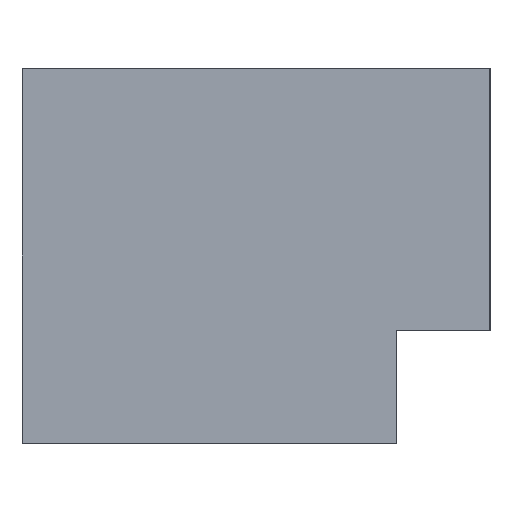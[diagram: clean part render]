
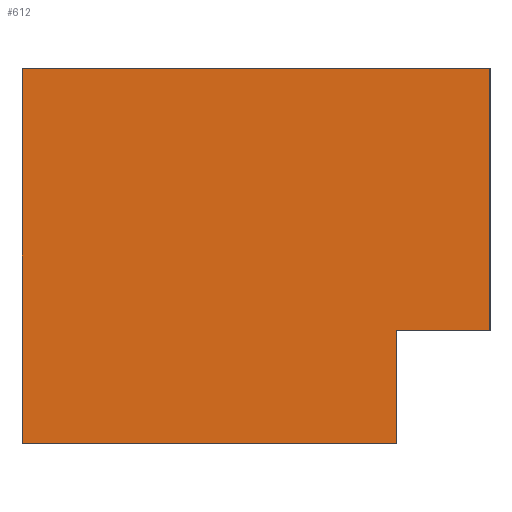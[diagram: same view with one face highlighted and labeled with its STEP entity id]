
A CAD part, left-side view. The second image highlights one B-rep face of the part: STEP entity #612.
In plain terms, the highlighted planar face has unit normal (1, 0, 0).
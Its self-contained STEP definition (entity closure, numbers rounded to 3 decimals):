
#557=CARTESIAN_POINT('Axis2P3D Location',(-31.5,0.,0.)) ;
#562=CARTESIAN_POINT('Line Origine',(-31.5,-22.5,-4.)) ;
#566=CARTESIAN_POINT('Vertex',(-31.5,-25.,-4.)) ;
#568=CARTESIAN_POINT('Vertex',(-31.5,-20.,-4.)) ;
#571=CARTESIAN_POINT('Line Origine',(-31.5,-20.,-7.)) ;
#575=CARTESIAN_POINT('Vertex',(-31.5,-20.,-10.)) ;
#578=CARTESIAN_POINT('Line Origine',(-31.5,-10.,-10.)) ;
#582=CARTESIAN_POINT('Vertex',(-31.5,0.,-10.)) ;
#585=CARTESIAN_POINT('Line Origine',(-31.5,0.,0.)) ;
#589=CARTESIAN_POINT('Vertex',(-31.5,0.,10.)) ;
#592=CARTESIAN_POINT('Line Origine',(-31.5,-12.5,10.)) ;
#596=CARTESIAN_POINT('Vertex',(-31.5,-25.,10.)) ;
#599=CARTESIAN_POINT('Line Origine',(-31.5,-25.,3.)) ;
#558=DIRECTION('Axis2P3D Direction',(1.,0.,0.)) ;
#559=DIRECTION('Axis2P3D XDirection',(0.,1.,0.)) ;
#563=DIRECTION('Vector Direction',(0.,1.,0.)) ;
#572=DIRECTION('Vector Direction',(0.,0.,-1.)) ;
#579=DIRECTION('Vector Direction',(0.,1.,0.)) ;
#586=DIRECTION('Vector Direction',(0.,0.,1.)) ;
#593=DIRECTION('Vector Direction',(0.,-1.,0.)) ;
#600=DIRECTION('Vector Direction',(0.,0.,-1.)) ;
#560=AXIS2_PLACEMENT_3D('Plane Axis2P3D',#557,#558,#559) ;
#605=ORIENTED_EDGE('',*,*,#570,.T.) ;
#606=ORIENTED_EDGE('',*,*,#577,.T.) ;
#607=ORIENTED_EDGE('',*,*,#584,.T.) ;
#608=ORIENTED_EDGE('',*,*,#591,.T.) ;
#609=ORIENTED_EDGE('',*,*,#598,.T.) ;
#610=ORIENTED_EDGE('',*,*,#603,.T.) ;
#564=VECTOR('Line Direction',#563,1.) ;
#573=VECTOR('Line Direction',#572,1.) ;
#580=VECTOR('Line Direction',#579,1.) ;
#587=VECTOR('Line Direction',#586,1.) ;
#594=VECTOR('Line Direction',#593,1.) ;
#601=VECTOR('Line Direction',#600,1.) ;
#612=ADVANCED_FACE('MANIFOLD_SOLID_BREP #2440',(#611),#561,.T.) ;
#570=EDGE_CURVE('',#567,#569,#565,.T.) ;
#577=EDGE_CURVE('',#569,#576,#574,.T.) ;
#584=EDGE_CURVE('',#576,#583,#581,.T.) ;
#591=EDGE_CURVE('',#583,#590,#588,.T.) ;
#598=EDGE_CURVE('',#590,#597,#595,.T.) ;
#603=EDGE_CURVE('',#597,#567,#602,.T.) ;
#604=EDGE_LOOP('',(#605,#606,#607,#608,#609,#610)) ;
#611=FACE_OUTER_BOUND('',#604,.T.) ;
#565=LINE('Line',#562,#564) ;
#574=LINE('Line',#571,#573) ;
#581=LINE('Line',#578,#580) ;
#588=LINE('Line',#585,#587) ;
#595=LINE('Line',#592,#594) ;
#602=LINE('Line',#599,#601) ;
#561=PLANE('Plane',#560) ;
#567=VERTEX_POINT('',#566) ;
#569=VERTEX_POINT('',#568) ;
#576=VERTEX_POINT('',#575) ;
#583=VERTEX_POINT('',#582) ;
#590=VERTEX_POINT('',#589) ;
#597=VERTEX_POINT('',#596) ;
